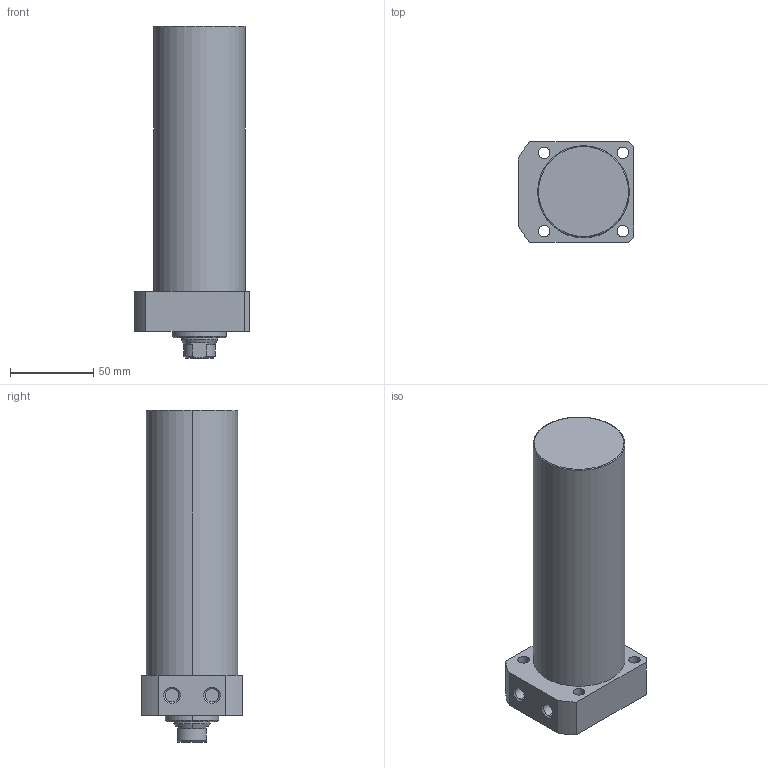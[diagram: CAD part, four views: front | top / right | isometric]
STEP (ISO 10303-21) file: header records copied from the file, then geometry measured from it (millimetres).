
FILE_DESCRIPTION (( 'STEP AP203' ), '1' );
FILE_NAME ('CLLR-055CA-130.STEP', '2019-12-17T11:43:11', ( '' ), ( '' ), 'SwSTEP 2.0', 'SolidWorks 2015', '' );
FILE_SCHEMA (( 'CONFIG_CONTROL_DESIGN' ));
Length unit declared in the file: millimetre
Products named in the file (1): CLLR-055CA-130
Bounding box: 69 x 60 x 199 mm (x, y, z)
Volume: 475384.4 mm3; surface area: 45760.2 mm2
Topology: 1 solids, 1 shells, 65 faces, 150 edges, 93 vertices
Faces by surface type: cylinder 29, plane 19, cone 15, torus 2
Entity records: 1959 total; most frequent: DIRECTION 348, CARTESIAN_POINT 347, ORIENTED_EDGE 296, EDGE_CURVE 148, AXIS2_PLACEMENT_3D 142, VERTEX_POINT 93, EDGE_LOOP 81, CIRCLE 76
